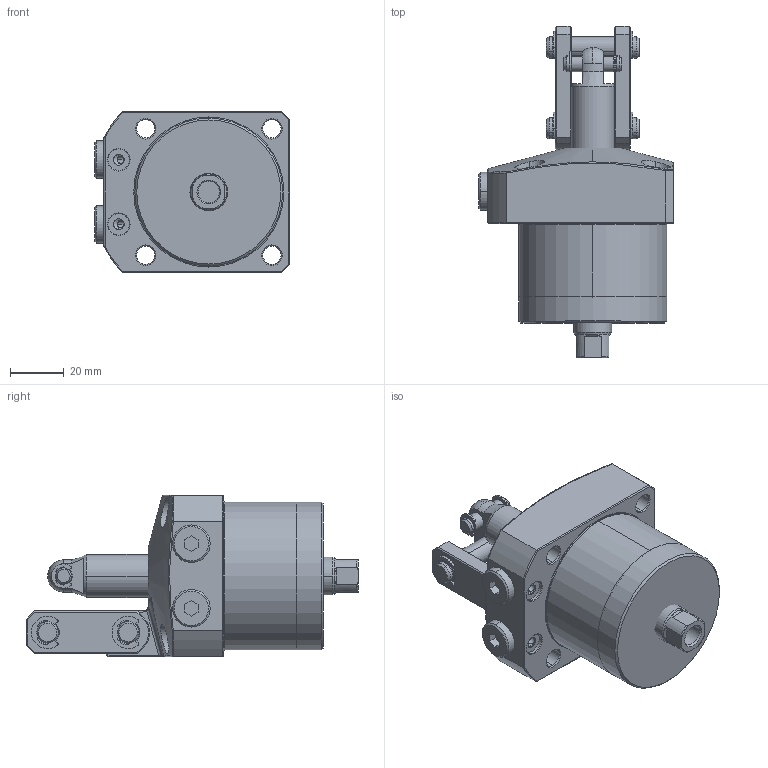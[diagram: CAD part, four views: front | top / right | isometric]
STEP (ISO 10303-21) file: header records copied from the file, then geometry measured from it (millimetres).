
FILE_DESCRIPTION(/* description */ (''),/* implementation_level */ '2;1');
FILE_NAME(/* name */ 'KTPC55-LD.stp',/* time_stamp */ '2022-11-19T07:46:28+08:00',/* author */ (''),/* organization */ (''),/* preprocessor_version */ 'ST-DEVELOPER v16.7',/* originating_system */ 'SIEMENS PLM Software NX 12.0',/* authorisation */ '');
FILE_SCHEMA (('AP203_CONFIGURATION_CONTROLLED_3D_DESIGN_OF_MECHANICAL_PARTS_AND_ASSEMBLIES_MIM_LF { 1 0 10303 403 2 1 2}'));
Length unit declared in the file: millimetre
Products named in the file (10): KTPC55-LD-03; KTPC55-LD-02; KTPC55-LD-08; KTPC55-LD-01; KTPC55-LD-05; KTPC55-LD-09; KTPC55-LD-06; KTPC55-LD-04; KTPC55-LD-07; LKA0550-CLD_step
Assembly tree (16 placements, depth 2):
  LKA0550-CLD_step
    KTPC55-LD-07
    KTPC55-LD-04  x2
    KTPC55-LD-06  x2
    KTPC55-LD-09  x4
    KTPC55-LD-05  x2
    KTPC55-LD-01
    KTPC55-LD-08  x2
    KTPC55-LD-02
    KTPC55-LD-03
Bounding box: 72.5 x 123.5 x 60 mm (x, y, z)
Volume: 272471 mm3; surface area: 47094.6 mm2
Topology: 16 solids, 16 shells, 591 faces, 1427 edges, 891 vertices
Faces by surface type: cylinder 244, plane 185, cone 79, torus 64, bspline 17, sphere 2
Full cylindrical faces by diameter (mm): 55 x1
Entity records: 13638 total; most frequent: CARTESIAN_POINT 3395, DIRECTION 1949, ORIENTED_EDGE 1810, EDGE_CURVE 905, AXIS2_PLACEMENT_3D 789, VERTEX_POINT 561, EDGE_LOOP 426, CIRCLE 405
